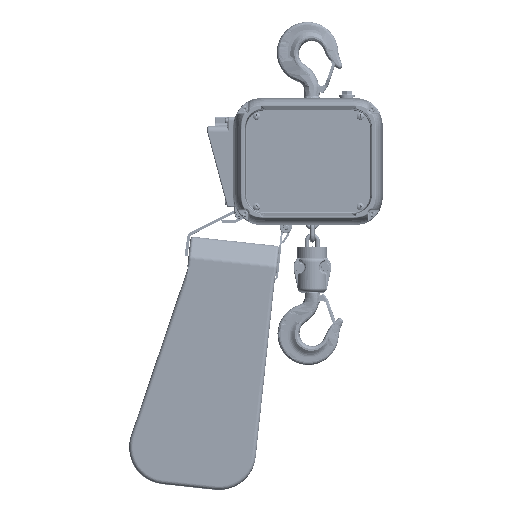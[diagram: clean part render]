
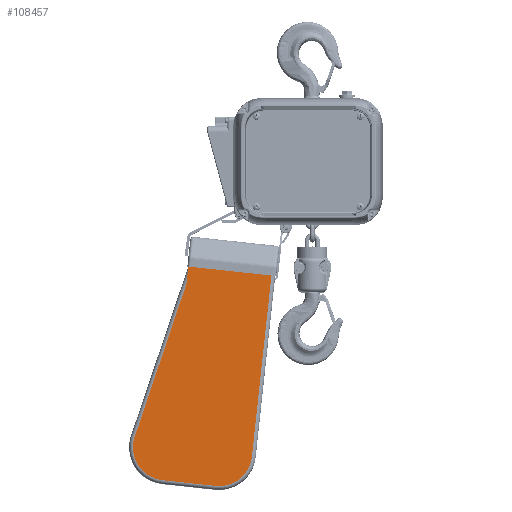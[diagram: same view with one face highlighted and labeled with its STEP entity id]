
A CAD part, top view. The second image highlights one B-rep face of the part: STEP entity #108457.
In plain terms, the highlighted planar face has unit normal (0, 0, 1) as drawn and (-1, 0, 0) by its records, which use the part's own axes.
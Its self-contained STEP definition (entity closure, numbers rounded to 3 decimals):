
#12243 = VERTEX_POINT ( 'NONE', #170038 ) ;
#12784 = ORIENTED_EDGE ( 'NONE', *, *, #23262, .T. ) ;
#15812 = ORIENTED_EDGE ( 'NONE', *, *, #117250, .T. ) ;
#22014 = VECTOR ( 'NONE', #51014, 1000. ) ;
#23153 = CARTESIAN_POINT ( 'NONE',  ( 1.642, 12.7, -146.558 ) ) ;
#23262 = EDGE_CURVE ( 'NONE', #132396, #12243, #50050, .T. ) ;
#25254 = DIRECTION ( 'NONE',  ( 0., 0., -1. ) ) ;
#27544 = EDGE_CURVE ( 'NONE', #12243, #134935, #188541, .T. ) ;
#37304 = ORIENTED_EDGE ( 'NONE', *, *, #27544, .T. ) ;
#38208 = EDGE_LOOP ( 'NONE', ( #15812, #186474, #52771, #65163, #84297, #131845, #12784, #37304 ) ) ;
#46782 = EDGE_CURVE ( 'NONE', #144574, #133908, #72013, .T. ) ;
#50050 = LINE ( 'NONE', #81354, #22014 ) ;
#51014 = DIRECTION ( 'NONE',  ( 0., 1., 0. ) ) ;
#52771 = ORIENTED_EDGE ( 'NONE', *, *, #58458, .T. ) ;
#52989 = VECTOR ( 'NONE', #158468, 1000. ) ;
#53446 = VERTEX_POINT ( 'NONE', #108442 ) ;
#58458 = EDGE_CURVE ( 'NONE', #183728, #144574, #113733, .T. ) ;
#61087 = CARTESIAN_POINT ( 'NONE',  ( 1.642, -356.87, -151.384 ) ) ;
#61124 = EDGE_CURVE ( 'NONE', #53446, #183728, #151534, .T. ) ;
#65163 = ORIENTED_EDGE ( 'NONE', *, *, #46782, .T. ) ;
#67218 = DIRECTION ( 'NONE',  ( 1., 0., 0. ) ) ;
#67328 = VECTOR ( 'NONE', #137803, 1000. ) ;
#67860 = EDGE_CURVE ( 'NONE', #133908, #148613, #112162, .T. ) ;
#67988 = CARTESIAN_POINT ( 'NONE',  ( 1.642, 12.7, -1.524 ) ) ;
#69773 = CARTESIAN_POINT ( 'NONE',  ( 1.642, -302.26, -62.484 ) ) ;
#72013 = CIRCLE ( 'NONE', #159642, 54.61 ) ;
#79876 = CARTESIAN_POINT ( 'NONE',  ( 1.642, -290.395, -204.69 ) ) ;
#81354 = CARTESIAN_POINT ( 'NONE',  ( 1.642, -302.26, -7.874 ) ) ;
#81578 = DIRECTION ( 'NONE',  ( 0., 0., -1. ) ) ;
#81718 = DIRECTION ( 'NONE',  ( 0., 0., 1. ) ) ;
#84297 = ORIENTED_EDGE ( 'NONE', *, *, #67860, .T. ) ;
#92064 = AXIS2_PLACEMENT_3D ( 'NONE', #69773, #156100, #81578 ) ;
#93058 = DIRECTION ( 'NONE',  ( -1., 0., 0. ) ) ;
#98511 = CARTESIAN_POINT ( 'NONE',  ( 1.642, 12.7, -146.558 ) ) ;
#104922 = CARTESIAN_POINT ( 'NONE',  ( 1.642, -302.26, -151.384 ) ) ;
#108442 = CARTESIAN_POINT ( 'NONE',  ( 1.642, -29.227, -146.558 ) ) ;
#108457 = ADVANCED_FACE ( 'NONE', ( #154554 ), #110462, .F. ) ;
#110462 = PLANE ( 'NONE',  #113314 ) ;
#110527 = LINE ( 'NONE', #23153, #52989 ) ;
#112162 = LINE ( 'NONE', #115045, #179243 ) ;
#113314 = AXIS2_PLACEMENT_3D ( 'NONE', #158405, #67218, #172112 ) ;
#113733 = CIRCLE ( 'NONE', #182530, 54.61 ) ;
#115045 = CARTESIAN_POINT ( 'NONE',  ( 1.642, -356.87, -151.384 ) ) ;
#115270 = VECTOR ( 'NONE', #161112, 1000. ) ;
#117250 = EDGE_CURVE ( 'NONE', #134935, #53446, #110527, .T. ) ;
#123436 = CARTESIAN_POINT ( 'NONE',  ( 1.642, -302.26, -151.384 ) ) ;
#131845 = ORIENTED_EDGE ( 'NONE', *, *, #143986, .T. ) ;
#132396 = VERTEX_POINT ( 'NONE', #141557 ) ;
#133908 = VERTEX_POINT ( 'NONE', #61087 ) ;
#134309 = DIRECTION ( 'NONE',  ( 0., 0., -1. ) ) ;
#134935 = VERTEX_POINT ( 'NONE', #98511 ) ;
#137803 = DIRECTION ( 'NONE',  ( 0., -0.976, -0.217 ) ) ;
#141557 = CARTESIAN_POINT ( 'NONE',  ( 1.642, -302.26, -7.874 ) ) ;
#141828 = CARTESIAN_POINT ( 'NONE',  ( 1.642, -290.395, -204.69 ) ) ;
#143986 = EDGE_CURVE ( 'NONE', #148613, #132396, #167213, .T. ) ;
#144574 = VERTEX_POINT ( 'NONE', #160723 ) ;
#148613 = VERTEX_POINT ( 'NONE', #185989 ) ;
#151534 = LINE ( 'NONE', #79876, #67328 ) ;
#154554 = FACE_OUTER_BOUND ( 'NONE', #38208, .T. ) ;
#156100 = DIRECTION ( 'NONE',  ( -1., 0., 0. ) ) ;
#158405 = CARTESIAN_POINT ( 'NONE',  ( 1.642, -302.26, -151.384 ) ) ;
#158468 = DIRECTION ( 'NONE',  ( 0., -1., 0. ) ) ;
#159591 = DIRECTION ( 'NONE',  ( -1., 0., 0. ) ) ;
#159642 = AXIS2_PLACEMENT_3D ( 'NONE', #123436, #159591, #25254 ) ;
#160723 = CARTESIAN_POINT ( 'NONE',  ( 1.642, -302.26, -205.994 ) ) ;
#161112 = DIRECTION ( 'NONE',  ( 0., 0., -1. ) ) ;
#167213 = CIRCLE ( 'NONE', #92064, 54.61 ) ;
#170038 = CARTESIAN_POINT ( 'NONE',  ( 1.642, 12.7, -7.874 ) ) ;
#172112 = DIRECTION ( 'NONE',  ( 0., 0., -1. ) ) ;
#179243 = VECTOR ( 'NONE', #81718, 1000. ) ;
#182530 = AXIS2_PLACEMENT_3D ( 'NONE', #104922, #93058, #134309 ) ;
#183728 = VERTEX_POINT ( 'NONE', #141828 ) ;
#185989 = CARTESIAN_POINT ( 'NONE',  ( 1.642, -356.87, -62.484 ) ) ;
#186474 = ORIENTED_EDGE ( 'NONE', *, *, #61124, .T. ) ;
#188541 = LINE ( 'NONE', #67988, #115270 ) ;
